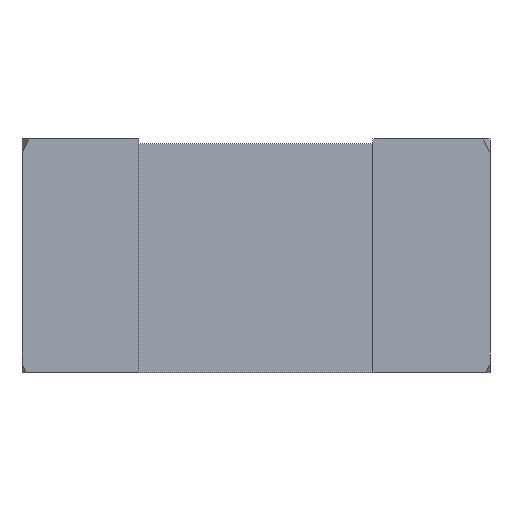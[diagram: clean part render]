
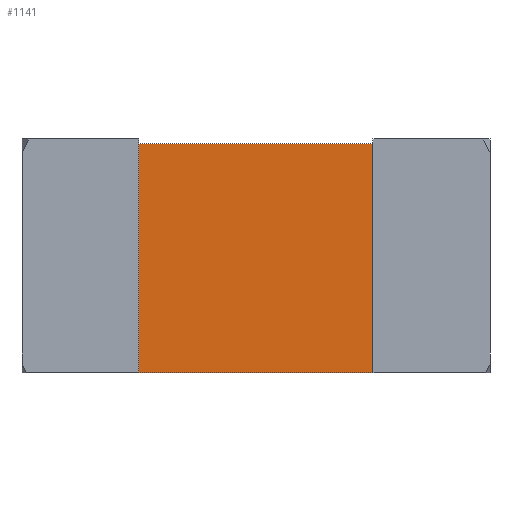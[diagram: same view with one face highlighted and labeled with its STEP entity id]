
A CAD part, front view. The second image highlights one B-rep face of the part: STEP entity #1141.
In plain terms, the highlighted planar face has unit normal (0, -1, 0).
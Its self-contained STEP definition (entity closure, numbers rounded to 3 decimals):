
#80 = VERTEX_POINT('',#81);
#81 = CARTESIAN_POINT('',(-0.389,-0.381,0.));
#114 = PLANE('',#115);
#115 = AXIS2_PLACEMENT_3D('',#116,#117,#118);
#116 = CARTESIAN_POINT('',(-0.762,-0.381,0.));
#117 = DIRECTION('',(0.,0.,1.));
#118 = DIRECTION('',(1.,0.,0.));
#347 = B_SPLINE_SURFACE_WITH_KNOTS('',1,1,(
    (#348,#349)
    ,(#350,#351
    )),.UNSPECIFIED.,.F.,.F.,.F.,(2,2),(2,2),(0.,0.762),(-0.762,0.),
  .PIECEWISE_BEZIER_KNOTS.);
#348 = CARTESIAN_POINT('',(-0.389,0.389,0.));
#349 = CARTESIAN_POINT('',(-0.389,-0.389,0.));
#350 = CARTESIAN_POINT('',(-0.389,0.389,0.777));
#351 = CARTESIAN_POINT('',(-0.389,-0.389,0.777));
#411 = EDGE_CURVE('',#80,#412,#414,.T.);
#412 = VERTEX_POINT('',#413);
#413 = CARTESIAN_POINT('',(0.389,-0.381,0.));
#414 = SURFACE_CURVE('',#415,(#419,#426),.PCURVE_S1.);
#415 = LINE('',#416,#417);
#416 = CARTESIAN_POINT('',(-0.762,-0.381,0.));
#417 = VECTOR('',#418,1.);
#418 = DIRECTION('',(1.,0.,0.));
#419 = PCURVE('',#114,#420);
#420 = DEFINITIONAL_REPRESENTATION('',(#421),#425);
#421 = LINE('',#422,#423);
#422 = CARTESIAN_POINT('',(0.,0.));
#423 = VECTOR('',#424,1.);
#424 = DIRECTION('',(1.,0.));
#425 = ( GEOMETRIC_REPRESENTATION_CONTEXT(2) 
PARAMETRIC_REPRESENTATION_CONTEXT() REPRESENTATION_CONTEXT('2D SPACE',''
  ) );
#426 = PCURVE('',#427,#432);
#427 = PLANE('',#428);
#428 = AXIS2_PLACEMENT_3D('',#429,#430,#431);
#429 = CARTESIAN_POINT('',(-0.762,-0.381,0.));
#430 = DIRECTION('',(0.,1.,0.));
#431 = DIRECTION('',(0.,0.,1.));
#432 = DEFINITIONAL_REPRESENTATION('',(#433),#437);
#433 = LINE('',#434,#435);
#434 = CARTESIAN_POINT('',(0.,0.));
#435 = VECTOR('',#436,1.);
#436 = DIRECTION('',(0.,1.));
#437 = ( GEOMETRIC_REPRESENTATION_CONTEXT(2) 
PARAMETRIC_REPRESENTATION_CONTEXT() REPRESENTATION_CONTEXT('2D SPACE',''
  ) );
#665 = EDGE_CURVE('',#666,#80,#668,.T.);
#666 = VERTEX_POINT('',#667);
#667 = CARTESIAN_POINT('',(-0.389,-0.381,0.762));
#668 = SURFACE_CURVE('',#669,(#672,#678),.PCURVE_S1.);
#669 = B_SPLINE_CURVE_WITH_KNOTS('',1,(#670,#671),.UNSPECIFIED.,.F.,.F.,
  (2,2),(0.,1.),.PIECEWISE_BEZIER_KNOTS.);
#670 = CARTESIAN_POINT('',(-0.389,-0.381,0.762));
#671 = CARTESIAN_POINT('',(-0.389,-0.381,0.));
#672 = PCURVE('',#347,#673);
#673 = DEFINITIONAL_REPRESENTATION('',(#674),#677);
#674 = B_SPLINE_CURVE_WITH_KNOTS('',1,(#675,#676),.UNSPECIFIED.,.F.,.F.,
  (2,2),(0.,1.),.PIECEWISE_BEZIER_KNOTS.);
#675 = CARTESIAN_POINT('',(0.747,-0.007));
#676 = CARTESIAN_POINT('',(0.,-0.007));
#677 = ( GEOMETRIC_REPRESENTATION_CONTEXT(2) 
PARAMETRIC_REPRESENTATION_CONTEXT() REPRESENTATION_CONTEXT('2D SPACE',''
  ) );
#678 = PCURVE('',#427,#679);
#679 = DEFINITIONAL_REPRESENTATION('',(#680),#683);
#680 = B_SPLINE_CURVE_WITH_KNOTS('',1,(#681,#682),.UNSPECIFIED.,.F.,.F.,
  (2,2),(0.,1.),.PIECEWISE_BEZIER_KNOTS.);
#681 = CARTESIAN_POINT('',(0.762,0.373));
#682 = CARTESIAN_POINT('',(0.,0.373));
#683 = ( GEOMETRIC_REPRESENTATION_CONTEXT(2) 
PARAMETRIC_REPRESENTATION_CONTEXT() REPRESENTATION_CONTEXT('2D SPACE',''
  ) );
#699 = PLANE('',#700);
#700 = AXIS2_PLACEMENT_3D('',#701,#702,#703);
#701 = CARTESIAN_POINT('',(-0.762,-0.381,0.762));
#702 = DIRECTION('',(0.,0.,1.));
#703 = DIRECTION('',(1.,0.,0.));
#1055 = B_SPLINE_SURFACE_WITH_KNOTS('',1,1,(
    (#1056,#1057)
    ,(#1058,#1059
    )),.UNSPECIFIED.,.F.,.F.,.F.,(2,2),(2,2),(0.,0.762),(-0.762,0.),
  .PIECEWISE_BEZIER_KNOTS.);
#1056 = CARTESIAN_POINT('',(0.389,0.389,0.));
#1057 = CARTESIAN_POINT('',(0.389,-0.389,0.));
#1058 = CARTESIAN_POINT('',(0.389,0.389,0.777));
#1059 = CARTESIAN_POINT('',(0.389,-0.389,0.777));
#1141 = ADVANCED_FACE('',(#1142),#427,.F.);
#1142 = FACE_BOUND('',#1143,.F.);
#1143 = EDGE_LOOP('',(#1144,#1145,#1146,#1169));
#1144 = ORIENTED_EDGE('',*,*,#411,.F.);
#1145 = ORIENTED_EDGE('',*,*,#665,.F.);
#1146 = ORIENTED_EDGE('',*,*,#1147,.T.);
#1147 = EDGE_CURVE('',#666,#1148,#1150,.T.);
#1148 = VERTEX_POINT('',#1149);
#1149 = CARTESIAN_POINT('',(0.389,-0.381,0.762));
#1150 = SURFACE_CURVE('',#1151,(#1155,#1162),.PCURVE_S1.);
#1151 = LINE('',#1152,#1153);
#1152 = CARTESIAN_POINT('',(-0.762,-0.381,0.762));
#1153 = VECTOR('',#1154,1.);
#1154 = DIRECTION('',(1.,0.,0.));
#1155 = PCURVE('',#427,#1156);
#1156 = DEFINITIONAL_REPRESENTATION('',(#1157),#1161);
#1157 = LINE('',#1158,#1159);
#1158 = CARTESIAN_POINT('',(0.762,0.));
#1159 = VECTOR('',#1160,1.);
#1160 = DIRECTION('',(0.,1.));
#1161 = ( GEOMETRIC_REPRESENTATION_CONTEXT(2) 
PARAMETRIC_REPRESENTATION_CONTEXT() REPRESENTATION_CONTEXT('2D SPACE',''
  ) );
#1162 = PCURVE('',#699,#1163);
#1163 = DEFINITIONAL_REPRESENTATION('',(#1164),#1168);
#1164 = LINE('',#1165,#1166);
#1165 = CARTESIAN_POINT('',(0.,0.));
#1166 = VECTOR('',#1167,1.);
#1167 = DIRECTION('',(1.,0.));
#1168 = ( GEOMETRIC_REPRESENTATION_CONTEXT(2) 
PARAMETRIC_REPRESENTATION_CONTEXT() REPRESENTATION_CONTEXT('2D SPACE',''
  ) );
#1169 = ORIENTED_EDGE('',*,*,#1170,.T.);
#1170 = EDGE_CURVE('',#1148,#412,#1171,.T.);
#1171 = SURFACE_CURVE('',#1172,(#1175,#1181),.PCURVE_S1.);
#1172 = B_SPLINE_CURVE_WITH_KNOTS('',1,(#1173,#1174),.UNSPECIFIED.,.F.,
  .F.,(2,2),(0.,1.),.PIECEWISE_BEZIER_KNOTS.);
#1173 = CARTESIAN_POINT('',(0.389,-0.381,0.762));
#1174 = CARTESIAN_POINT('',(0.389,-0.381,0.));
#1175 = PCURVE('',#427,#1176);
#1176 = DEFINITIONAL_REPRESENTATION('',(#1177),#1180);
#1177 = B_SPLINE_CURVE_WITH_KNOTS('',1,(#1178,#1179),.UNSPECIFIED.,.F.,
  .F.,(2,2),(0.,1.),.PIECEWISE_BEZIER_KNOTS.);
#1178 = CARTESIAN_POINT('',(0.762,1.151));
#1179 = CARTESIAN_POINT('',(0.,1.151));
#1180 = ( GEOMETRIC_REPRESENTATION_CONTEXT(2) 
PARAMETRIC_REPRESENTATION_CONTEXT() REPRESENTATION_CONTEXT('2D SPACE',''
  ) );
#1181 = PCURVE('',#1055,#1182);
#1182 = DEFINITIONAL_REPRESENTATION('',(#1183),#1186);
#1183 = B_SPLINE_CURVE_WITH_KNOTS('',1,(#1184,#1185),.UNSPECIFIED.,.F.,
  .F.,(2,2),(0.,1.),.PIECEWISE_BEZIER_KNOTS.);
#1184 = CARTESIAN_POINT('',(0.747,-0.007));
#1185 = CARTESIAN_POINT('',(0.,-0.007));
#1186 = ( GEOMETRIC_REPRESENTATION_CONTEXT(2) 
PARAMETRIC_REPRESENTATION_CONTEXT() REPRESENTATION_CONTEXT('2D SPACE',''
  ) );
